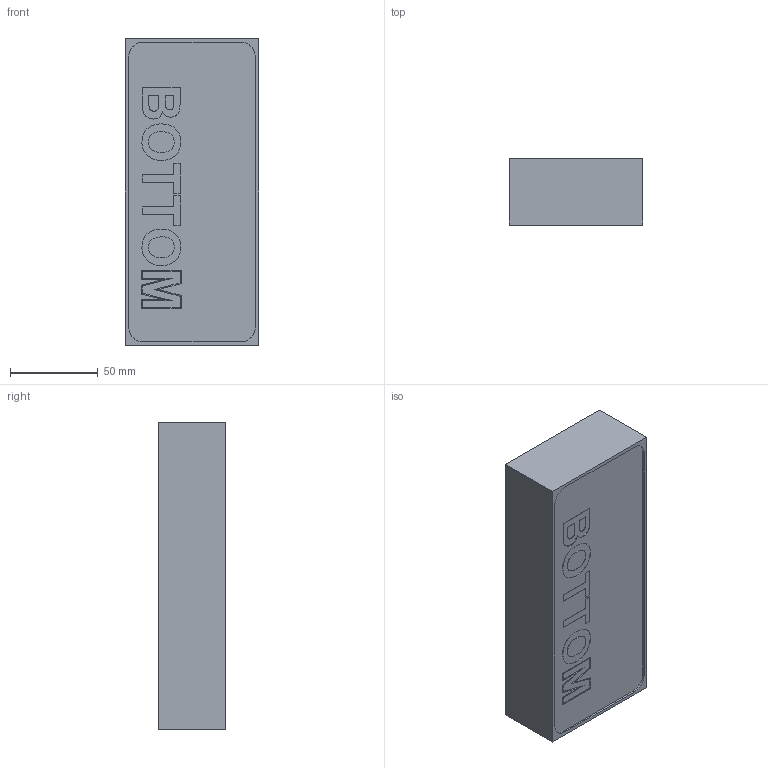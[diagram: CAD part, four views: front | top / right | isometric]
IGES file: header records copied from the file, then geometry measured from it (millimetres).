
Global section: file name: mould12 test v3; native system: unknown; preprocessor: unknown; author: carlZMG6P; organization: unknown; date: 20180530.143327; units: millimetre
Bounding box: 76 x 38 x 175 mm (x, y, z)
Volume: 480498.8 mm3; surface area: 46773.5 mm2
Topology: 1 solids, 1 shells, 184 faces, 495 edges, 330 vertices
Faces by surface type: bspline 184
